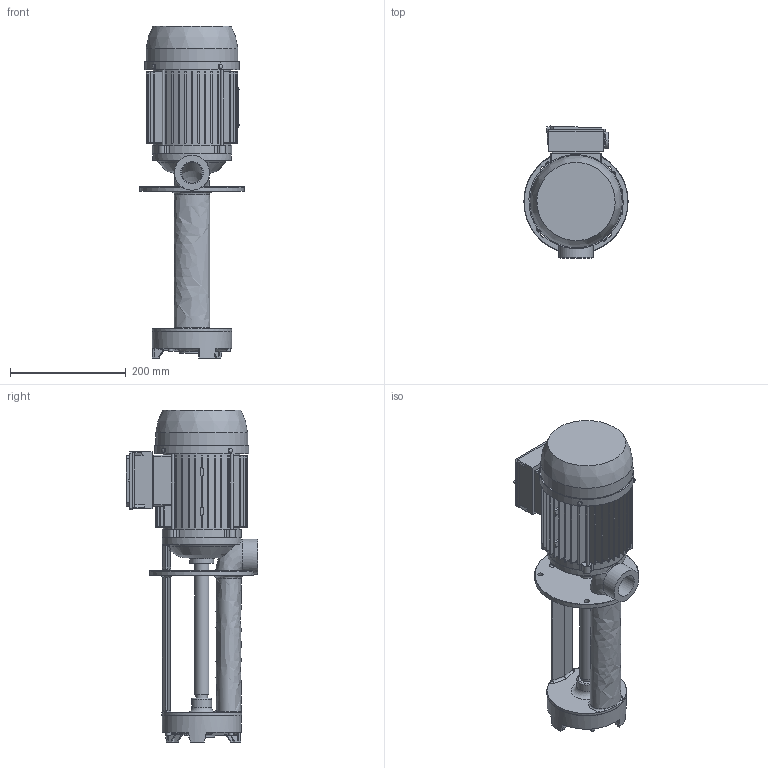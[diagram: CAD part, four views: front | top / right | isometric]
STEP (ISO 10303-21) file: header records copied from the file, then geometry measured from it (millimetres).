
FILE_DESCRIPTION(/* description */ (''),/* implementation_level */ '2;1');
FILE_NAME(/* name */ 'P:\3D PER CLIENTI\POMPE\SP\YT80SPB++270.stp',/* time_stamp */ '2019-05-27T09:29:51+02:00',/* author */ ('vgiaretta'),/* organization */ (''),/* preprocessor_version */ 'ST-DEVELOPER v17.2',/* originating_system */ 'Autodesk Inventor 2019',/* authorisation */ '');
FILE_SCHEMA (('AUTOMOTIVE_DESIGN { 1 0 10303 214 3 1 1 }'));
Length unit declared in the file: millimetre
Products named in the file (1): YT80SPB++270_Shrinkwrap_1
Bounding box: 180.26 x 227.93 x 573.98 mm (x, y, z)
Volume: 5844829.2 mm3; surface area: 535343.2 mm2
Topology: 1 solids, 1 shells, 1067 faces, 2894 edges, 1912 vertices
Faces by surface type: plane 529, cylinder 410, bspline 85, torus 18, sphere 14, cone 11
Full cylindrical faces by diameter (mm): 4.38 x4, 8 x3, 9 x4, 18.6 x1, 20 x1, 23.5 x1, 24.8 x2, 28.3 x1, 28.4 x1, 34 x1, 36.4 x1, 38.952 x1, 41 x1, 44.6 x1, 60.4 x1, 133.8 x1, 136.5 x1, 137 x1, 138 x1, 140 x1, 158.99 x1, 180.26 x1
Entity records: 40964 total; most frequent: CARTESIAN_POINT 13497, ORIENTED_EDGE 5792, DIRECTION 4988, EDGE_CURVE 2896, VERTEX_POINT 1912, AXIS2_PLACEMENT_3D 1691, LINE 1606, VECTOR 1606
